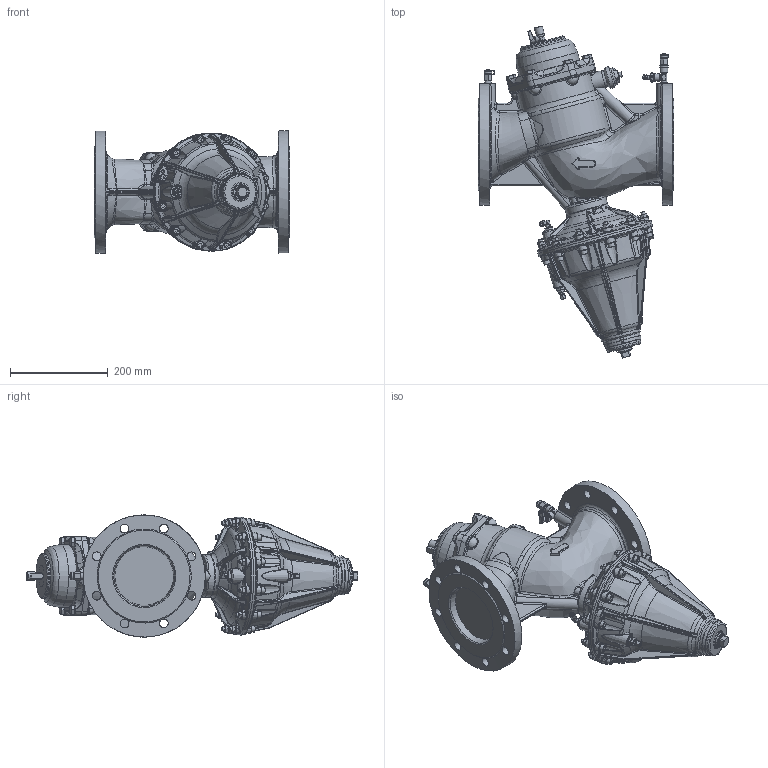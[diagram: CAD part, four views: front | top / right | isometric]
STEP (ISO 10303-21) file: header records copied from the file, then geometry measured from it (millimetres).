
FILE_DESCRIPTION (( 'STEP AP203' ), '1' );
FILE_NAME ('DL12516.STEP', '2014-10-02T12:13:49', ( 'luca.saino' ), ( 'Hewlett-Packard Company' ), 'SwSTEP 2.0', 'SolidWorks 2012', '' );
FILE_SCHEMA (( 'CONFIG_CONTROL_DESIGN' ));
Length unit declared in the file: millimetre
Products named in the file (1): DL12516
Bounding box: 400 x 679.26 x 249.97 mm (x, y, z)
Volume: 16724574.1 mm3; surface area: 786821.7 mm2
Topology: 1 solids, 41 shells, 3261 faces, 7789 edges, 4642 vertices
Faces by surface type: bspline 1326, plane 779, cone 523, cylinder 389, torus 224, sphere 20
Full cylindrical faces by diameter (mm): 3 x1, 4 x1, 4.4 x2, 5.408 x2, 5.634 x2, 6.5 x2, 6.75 x3, 7.4 x1, 7.895 x1, 8 x36, 8.5 x24, 8.9 x4, 9.6 x2, 9.7 x1, 9.8 x3, 9.93 x2, 10 x1, 10.053 x2, 11.45 x1, 11.5 x2, 11.7 x1, 12 x1, 12.5 x1, 13 x12, 13.15 x1, 13.157 x2, 15 x2, 15.6 x1, 16 x2, 16.6 x1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
Entity records: 153772 total; most frequent: CARTESIAN_POINT 91594, ORIENTED_EDGE 14706, DIRECTION 10035, EDGE_CURVE 7353, VERTEX_POINT 4478, AXIS2_PLACEMENT_3D 4337, EDGE_LOOP 3641, B_SPLINE_CURVE_WITH_KNOTS 3463
